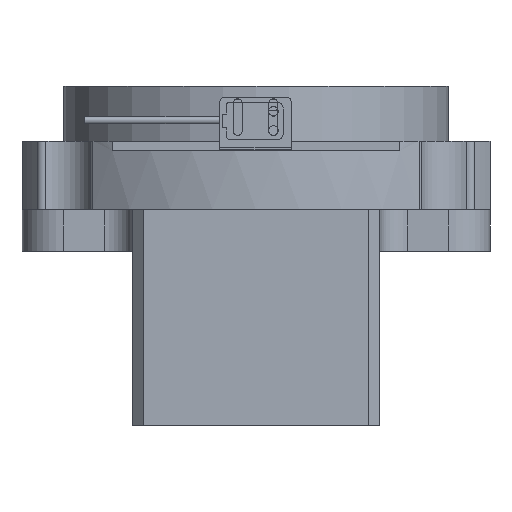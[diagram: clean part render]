
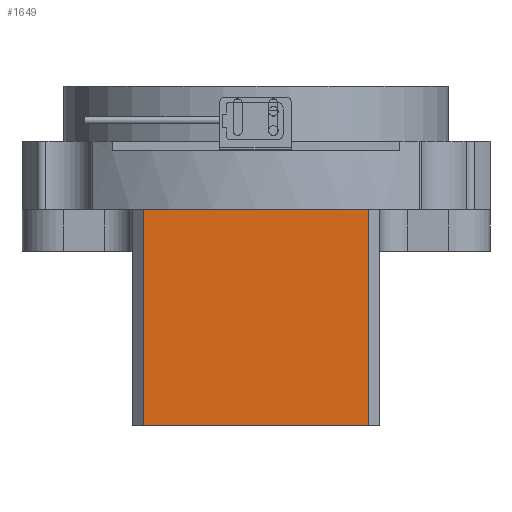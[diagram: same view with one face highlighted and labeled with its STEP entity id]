
A CAD part, front view. The second image highlights one B-rep face of the part: STEP entity #1649.
In plain terms, the highlighted planar face has unit normal (0, -1, 0).
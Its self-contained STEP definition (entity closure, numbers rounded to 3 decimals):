
#81 = AXIS2_PLACEMENT_3D ( 'NONE', #8260, #7063, #1054 ) ;
#319 = EDGE_CURVE ( 'NONE', #7986, #5393, #8239, .T. ) ;
#361 = CARTESIAN_POINT ( 'NONE',  ( -62.05, -108.493, -60.5 ) ) ;
#500 = CARTESIAN_POINT ( 'NONE',  ( 19.95, -108.493, 18. ) ) ;
#883 = VECTOR ( 'NONE', #6919, 1000. ) ;
#1054 = DIRECTION ( 'NONE',  ( 1., 0., 0. ) ) ;
#1280 = DIRECTION ( 'NONE',  ( 0., 0., -1. ) ) ;
#1294 = CARTESIAN_POINT ( 'NONE',  ( -62.05, -108.493, 18. ) ) ;
#1649 = ADVANCED_FACE ( 'NONE', ( #2373 ), #5755, .F. ) ;
#2336 = ORIENTED_EDGE ( 'NONE', *, *, #4311, .F. ) ;
#2373 = FACE_OUTER_BOUND ( 'NONE', #4115, .T. ) ;
#2399 = ORIENTED_EDGE ( 'NONE', *, *, #319, .T. ) ;
#2449 = VERTEX_POINT ( 'NONE', #7047 ) ;
#3432 = VECTOR ( 'NONE', #4511, 1000. ) ;
#3637 = VECTOR ( 'NONE', #6220, 1000. ) ;
#3765 = CARTESIAN_POINT ( 'NONE',  ( 19.95, -108.493, -60.5 ) ) ;
#4115 = EDGE_LOOP ( 'NONE', ( #2336, #2399, #5536, #5950 ) ) ;
#4206 = LINE ( 'NONE', #6137, #3637 ) ;
#4311 = EDGE_CURVE ( 'NONE', #7986, #4999, #4206, .T. ) ;
#4511 = DIRECTION ( 'NONE',  ( -1., 0., 0. ) ) ;
#4999 = VERTEX_POINT ( 'NONE', #500 ) ;
#5393 = VERTEX_POINT ( 'NONE', #361 ) ;
#5536 = ORIENTED_EDGE ( 'NONE', *, *, #8589, .F. ) ;
#5755 = PLANE ( 'NONE',  #81 ) ;
#5950 = ORIENTED_EDGE ( 'NONE', *, *, #7131, .F. ) ;
#6137 = CARTESIAN_POINT ( 'NONE',  ( -62.05, -108.493, 18. ) ) ;
#6220 = DIRECTION ( 'NONE',  ( 1., 0., 0. ) ) ;
#6533 = LINE ( 'NONE', #3765, #3432 ) ;
#6919 = DIRECTION ( 'NONE',  ( 0., 0., -1. ) ) ;
#7047 = CARTESIAN_POINT ( 'NONE',  ( 19.95, -108.493, -60.5 ) ) ;
#7063 = DIRECTION ( 'NONE',  ( 0., 1., 0. ) ) ;
#7131 = EDGE_CURVE ( 'NONE', #4999, #2449, #8646, .T. ) ;
#7289 = CARTESIAN_POINT ( 'NONE',  ( 19.95, -108.493, 63. ) ) ;
#7617 = CARTESIAN_POINT ( 'NONE',  ( -62.05, -108.493, 63. ) ) ;
#7653 = VECTOR ( 'NONE', #1280, 1000. ) ;
#7986 = VERTEX_POINT ( 'NONE', #1294 ) ;
#8239 = LINE ( 'NONE', #7617, #883 ) ;
#8260 = CARTESIAN_POINT ( 'NONE',  ( -62.05, -108.493, 63. ) ) ;
#8589 = EDGE_CURVE ( 'NONE', #2449, #5393, #6533, .T. ) ;
#8646 = LINE ( 'NONE', #7289, #7653 ) ;
